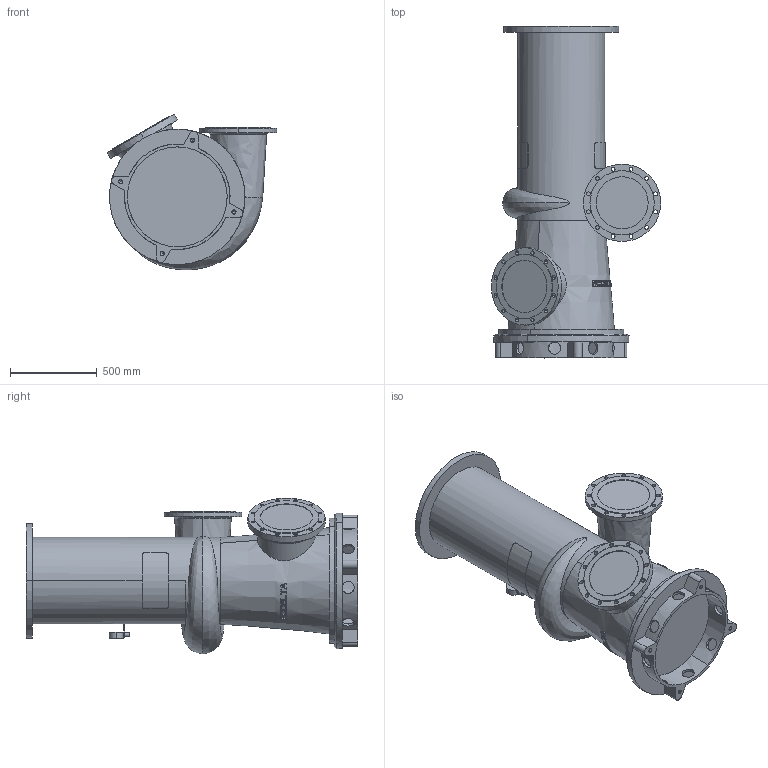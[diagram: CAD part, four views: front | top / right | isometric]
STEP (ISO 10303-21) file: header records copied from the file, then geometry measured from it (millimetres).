
FILE_DESCRIPTION((''),'2;1');
FILE_NAME('12-510_ASM','2024-08-05T',('Lyritlocal'),(''),'PRO/ENGINEER BY PARAMETRIC TECHNOLOGY CORPORATION, 2016360','PRO/ENGINEER BY PARAMETRIC TECHNOLOGY CORPORATION, 2016360','');
FILE_SCHEMA(('CONFIG_CONTROL_DESIGN'));
Length unit declared in the file: millimetre
Products named in the file (3): 12-510; 12-510_VOET; 12-510_ASM
Assembly tree (2 placements, depth 2):
  12-510_ASM
    12-510
    12-510_VOET
Bounding box: 975.69 x 1910 x 896.18 mm (x, y, z)
Volume: 485964673.1 mm3; surface area: 6451901.8 mm2
Topology: 2 solids, 6 shells, 503 faces, 1366 edges, 900 vertices
Faces by surface type: plane 323, cylinder 138, cone 36, bspline 6
Entity records: 18234 total; most frequent: CARTESIAN_POINT 5945, ORIENTED_EDGE 2700, DIRECTION 2279, EDGE_CURVE 1358, VERTEX_POINT 900, AXIS2_PLACEMENT_3D 896, EDGE_LOOP 608, FACE_OUTER_BOUND 503
